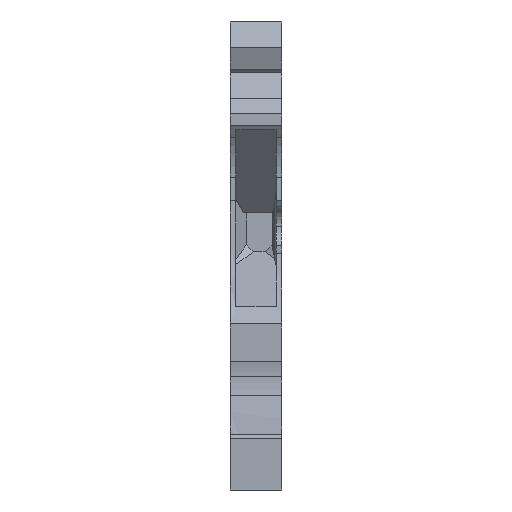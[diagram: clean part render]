
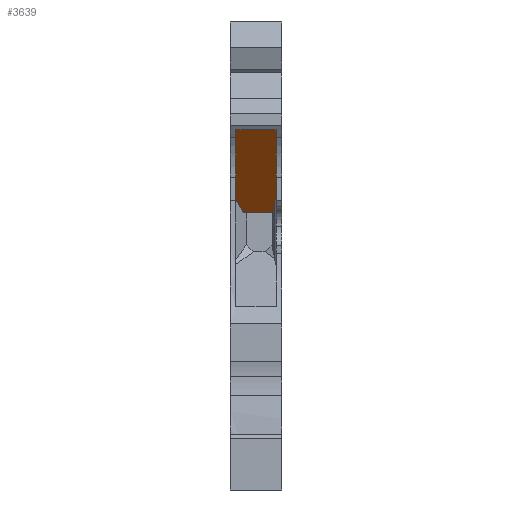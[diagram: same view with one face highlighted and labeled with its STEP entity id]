
A CAD part, front view. The second image highlights one B-rep face of the part: STEP entity #3639.
In plain terms, the highlighted planar face has unit normal (0, -0.715, -0.699).
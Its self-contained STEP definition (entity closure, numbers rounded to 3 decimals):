
#2973=CARTESIAN_POINT('',(0.55,9.256,29.137));
#2974=VERTEX_POINT('',#2973);
#2981=CARTESIAN_POINT('',(0.55,2.485,36.066));
#2982=VERTEX_POINT('',#2981);
#2983=CARTESIAN_POINT('',(0.55,2.485,36.066));
#2984=DIRECTION('',(0.,0.699,-0.715));
#2985=VECTOR('',#2984,9.689);
#2986=LINE('',#2983,#2985);
#2987=EDGE_CURVE('',#2982,#2974,#2986,.T.);
#3108=CARTESIAN_POINT('',(1.333,10.612,27.75));
#3109=VERTEX_POINT('',#3108);
#3116=CARTESIAN_POINT('',(0.55,9.256,29.137));
#3117=DIRECTION('',(0.374,0.648,-0.663));
#3118=VECTOR('',#3117,2.092);
#3119=LINE('',#3116,#3118);
#3120=EDGE_CURVE('',#2974,#3109,#3119,.T.);
#3141=CARTESIAN_POINT('',(4.214,10.612,27.75));
#3142=VERTEX_POINT('',#3141);
#3149=CARTESIAN_POINT('',(4.214,10.612,27.75));
#3150=DIRECTION('',(-1.,0.,-0.));
#3151=VECTOR('',#3150,2.882);
#3152=LINE('',#3149,#3151);
#3153=EDGE_CURVE('',#3142,#3109,#3152,.T.);
#3172=CARTESIAN_POINT('',(4.4,10.123,28.251));
#3173=VERTEX_POINT('',#3172);
#3174=CARTESIAN_POINT('',(4.214,10.612,27.75));
#3175=DIRECTION('',(0.256,-0.676,0.691));
#3176=VECTOR('',#3175,0.725);
#3177=LINE('',#3174,#3176);
#3178=EDGE_CURVE('',#3142,#3173,#3177,.T.);
#3429=CARTESIAN_POINT('',(4.6,2.485,36.066));
#3430=VERTEX_POINT('',#3429);
#3437=CARTESIAN_POINT('',(4.6,8.5,29.911));
#3438=VERTEX_POINT('',#3437);
#3439=CARTESIAN_POINT('',(4.6,8.5,29.911));
#3440=DIRECTION('',(-0.,-0.699,0.715));
#3441=VECTOR('',#3440,8.606);
#3442=LINE('',#3439,#3441);
#3443=EDGE_CURVE('',#3438,#3430,#3442,.T.);
#3577=CARTESIAN_POINT('',(4.4,10.123,28.251));
#3578=DIRECTION('',(0.086,-0.696,0.713));
#3579=VECTOR('',#3578,2.33);
#3580=LINE('',#3577,#3579);
#3581=EDGE_CURVE('',#3173,#3438,#3580,.T.);
#3588=CARTESIAN_POINT('',(-1.109,10.25,28.12));
#3589=DIRECTION('',(0.,-0.715,-0.699));
#3590=DIRECTION('',(-0.,-0.699,0.715));
#3591=AXIS2_PLACEMENT_3D('',#3588,#3589,#3590);
#3592=PLANE('',#3591);
#3593=CARTESIAN_POINT('',(1.6,2.485,36.066));
#3594=VERTEX_POINT('',#3593);
#3595=CARTESIAN_POINT('',(0.55,2.485,36.066));
#3596=DIRECTION('',(1.,0.,0.));
#3597=VECTOR('',#3596,1.05);
#3598=LINE('',#3595,#3597);
#3599=EDGE_CURVE('',#2982,#3594,#3598,.T.);
#3600=ORIENTED_EDGE('',*,*,#3599,.F.);
#3601=ORIENTED_EDGE('',*,*,#2987,.T.);
#3602=ORIENTED_EDGE('',*,*,#3120,.T.);
#3603=ORIENTED_EDGE('',*,*,#3153,.F.);
#3604=ORIENTED_EDGE('',*,*,#3178,.T.);
#3605=ORIENTED_EDGE('',*,*,#3581,.T.);
#3606=ORIENTED_EDGE('',*,*,#3443,.T.);
#3607=CARTESIAN_POINT('',(4.2,2.485,36.066));
#3608=VERTEX_POINT('',#3607);
#3609=CARTESIAN_POINT('',(4.2,2.485,36.066));
#3610=DIRECTION('',(1.,0.,0.));
#3611=VECTOR('',#3610,0.4);
#3612=LINE('',#3609,#3611);
#3613=EDGE_CURVE('',#3608,#3430,#3612,.T.);
#3614=ORIENTED_EDGE('',*,*,#3613,.F.);
#3615=CARTESIAN_POINT('',(4.2,2.428,36.125));
#3616=VERTEX_POINT('',#3615);
#3617=CARTESIAN_POINT('',(4.2,2.485,36.066));
#3618=DIRECTION('',(-0.,-0.699,0.715));
#3619=VECTOR('',#3618,0.082);
#3620=LINE('',#3617,#3619);
#3621=EDGE_CURVE('',#3608,#3616,#3620,.T.);
#3622=ORIENTED_EDGE('',*,*,#3621,.T.);
#3623=CARTESIAN_POINT('',(1.6,2.428,36.125));
#3624=VERTEX_POINT('',#3623);
#3625=CARTESIAN_POINT('',(1.6,2.428,36.125));
#3626=DIRECTION('',(1.,0.,0.));
#3627=VECTOR('',#3626,2.6);
#3628=LINE('',#3625,#3627);
#3629=EDGE_CURVE('',#3624,#3616,#3628,.T.);
#3630=ORIENTED_EDGE('',*,*,#3629,.F.);
#3631=CARTESIAN_POINT('',(1.6,2.428,36.125));
#3632=DIRECTION('',(0.,0.699,-0.715));
#3633=VECTOR('',#3632,0.082);
#3634=LINE('',#3631,#3633);
#3635=EDGE_CURVE('',#3624,#3594,#3634,.T.);
#3636=ORIENTED_EDGE('',*,*,#3635,.T.);
#3637=EDGE_LOOP('',(#3600,#3601,#3602,#3603,#3604,#3605,#3606,#3614,#3622,#3630,#3636));
#3638=FACE_BOUND('',#3637,.T.);
#3639=ADVANCED_FACE('',(#3638),#3592,.T.);
